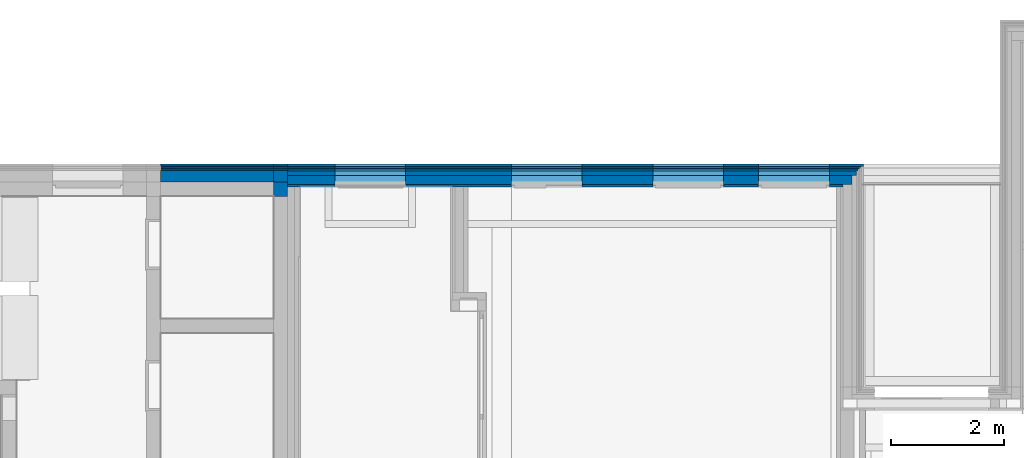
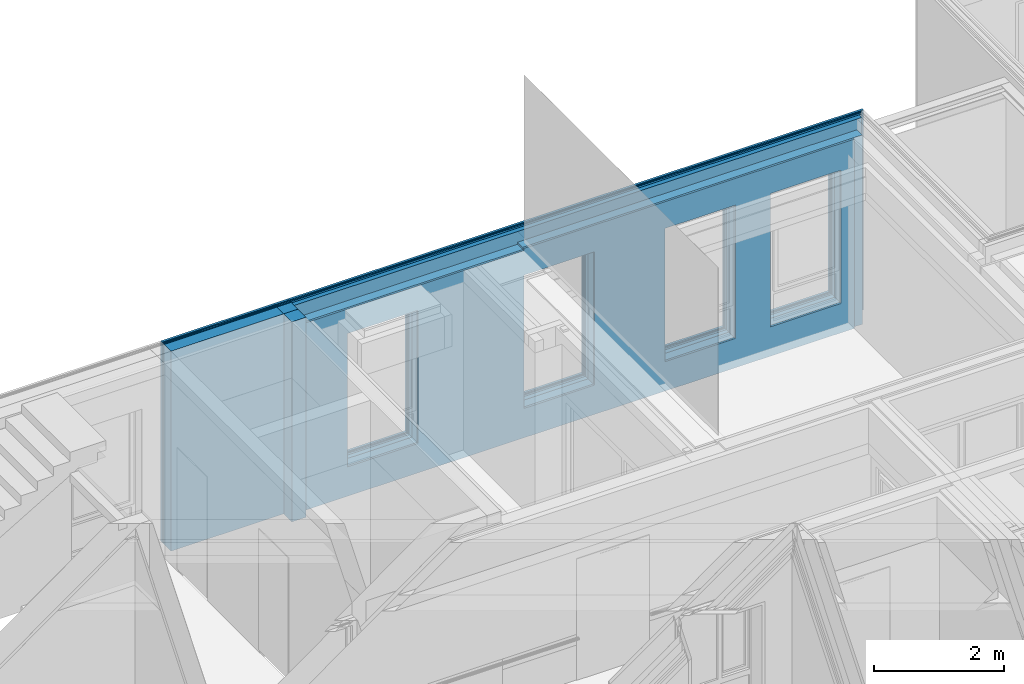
# One storey, part 39 of 222: 18 walls, 28 openings.
"""IFC4 building model written with IfcOpenShell, lengths in metres."""

from ifc_helpers import new_model, entity, si_unit, converted_unit, derived_unit, frame, frame_2d, origin, origin_with_axes, place, context, subcontext, project, spatial, polyline, rectangle, outline, extrude, clip, bounded_halfspace, material, element, save


model = new_model("IFC4")

# Units and contexts
model_context = context("Model", 3, precision=1e-05, world=origin())
body_context = subcontext(model_context, "Body", "Model", "MODEL_VIEW")
ifc_project = project(units=[si_unit("LENGTHUNIT", "METRE"), si_unit("AREAUNIT", "SQUARE_METRE"), si_unit("VOLUMEUNIT", "CUBIC_METRE"), si_unit("MASSUNIT", "GRAM", prefix="KILO"), converted_unit("PLANEANGLEUNIT", "DEGREE", entity("IfcPlaneAngleMeasure", 0.0174532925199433), si_unit("PLANEANGLEUNIT", "RADIAN"), dimensions=[0, 0, 0, 0, 0, 0, 0]), derived_unit("THERMALTRANSMITTANCEUNIT", [(si_unit("POWERUNIT", "WATT"), 1), (si_unit("THERMODYNAMICTEMPERATUREUNIT", "KELVIN"), -1), (si_unit("LENGTHUNIT", "METRE"), -2)]), derived_unit("VOLUMETRICFLOWRATEUNIT", [(si_unit("LENGTHUNIT", "METRE"), 3), (converted_unit("TIMEUNIT", "hour", entity("IfcTimeMeasure", 3600.0), si_unit("TIMEUNIT", "SECOND"), dimensions=[0, 0, 1, 0, 0, 0, 0]), -1), (si_unit("LENGTHUNIT", "METRE"), -1)])], contexts=[model_context])

# Site, building, storey
site_placement = place(None, origin())
site = spatial("IfcSite", under=ifc_project, at=site_placement, Name="Psychiatrie Neubau Wunstorf", CompositionType="ELEMENT")
building_placement = place(site_placement, origin())
building = spatial("IfcBuilding", under=site, at=building_placement, Name="Neubau H2 Stationsgebäude", CompositionType="ELEMENT")
storey_placement = place(building_placement, frame((0.0, 0.0, 3.6)))
storey = spatial("IfcBuildingStorey", under=building, at=storey_placement, Name="H2 Ebene +1", CompositionType="ELEMENT", Elevation=3.6)

# Walls
ifc_material_1 = material(Name="WA-DL")
wall_1_placement = place(storey_placement, frame((55.85, 29.1449996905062, 0.0)))
element("IfcWall", 1, at=wall_1_placement, inside=storey, material=ifc_material_1, context=body_context, shape_type="SweptSolid", body=[
    extrude(rectangle(XDim=2.0, YDim=0.21, at=frame_2d((1.0, 0.105), x_axis=(1.0, 0.0))), origin_with_axes(), (0.0, 0.0, 1.0), 3.75),
])
ifc_material_2 = material(Name="WA-LB")
wall_2_placement = place(storey_placement, frame((55.85, 29.3549996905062, 0.0)))
element("IfcWall", 2, at=wall_2_placement, inside=storey, material=ifc_material_2, context=body_context, shape_type="SweptSolid", body=[
    extrude(rectangle(XDim=2.0, YDim=0.021, at=frame_2d((1.0, 0.0105), x_axis=(1.0, 0.0))), origin_with_axes(), (0.0, 0.0, 1.0), 3.75),
])
ifc_material_3 = material(Name="WA-KL")
wall_3_placement = place(storey_placement, frame((55.85, 29.3759996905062, 0.0)))
element("IfcWall", 3, at=wall_3_placement, inside=storey, material=ifc_material_3, context=body_context, shape_type="SweptSolid", body=[
    extrude(rectangle(XDim=2.0, YDim=0.024, at=frame_2d((1.0, 0.012), x_axis=(1.0, 0.0))), origin_with_axes(), (0.0, 0.0, 1.0), 3.75),
])
ifc_material_4 = material(Name="WA-TL")
wall_4_placement = place(storey_placement, frame((55.85, 29.3999996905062, 0.0)))
element("IfcWall", 4, at=wall_4_placement, inside=storey, material=ifc_material_4, context=body_context, shape_type="SweptSolid", body=[
    extrude(rectangle(XDim=2.0, YDim=0.024, at=frame_2d((1.0, 0.012), x_axis=(1.0, 0.0))), origin_with_axes(), (0.0, 0.0, 1.0), 3.75),
])
ifc_material_5 = material(Name="WA-HS")
wall_5_placement = place(storey_placement, frame((55.85, 29.4239996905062, 0.0)))
element("IfcWall", 5, at=wall_5_placement, inside=storey, material=ifc_material_5, context=body_context, shape_type="SweptSolid", body=[
    extrude(rectangle(XDim=2.0, YDim=0.042, at=frame_2d((1.0, 0.021), x_axis=(1.0, 0.0))), origin_with_axes(), (0.0, 0.0, 1.0), 3.75),
])
ifc_material_6 = material(Name="WA-STB")
wall_6_placement = place(storey_placement, frame((57.85, 28.8949996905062, 0.0)))
element("IfcWall", 6, at=wall_6_placement, inside=storey, material=ifc_material_6, context=body_context, shape_type="SweptSolid", body=[
    extrude(rectangle(XDim=0.25, YDim=0.25, at=frame_2d((0.125, 0.125), x_axis=(1.0, 0.0))), origin_with_axes(), (0.0, 0.0, 1.0), 3.75),
])
ifc_material_7 = material(Name="WA-DL")
wall_7_placement = place(storey_placement, frame((57.85, 29.1449996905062, 0.0)))
element("IfcWall", 7, at=wall_7_placement, inside=storey, material=ifc_material_7, context=body_context, shape_type="SweptSolid", body=[
    extrude(rectangle(XDim=0.25, YDim=0.21, at=frame_2d((0.125, 0.105), x_axis=(1.0, 0.0))), origin_with_axes(), (0.0, 0.0, 1.0), 3.75),
])
ifc_material_8 = material(Name="WA-LB")
wall_8_placement = place(storey_placement, frame((57.85, 29.3549996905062, 0.0)))
element("IfcWall", 8, at=wall_8_placement, inside=storey, material=ifc_material_8, context=body_context, shape_type="SweptSolid", body=[
    extrude(rectangle(XDim=0.25, YDim=0.021, at=frame_2d((0.125, 0.0105), x_axis=(1.0, 0.0))), origin_with_axes(), (0.0, 0.0, 1.0), 3.75),
])
ifc_material_9 = material(Name="WA-KL")
wall_9_placement = place(storey_placement, frame((57.85, 29.3759996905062, 0.0)))
element("IfcWall", 9, at=wall_9_placement, inside=storey, material=ifc_material_9, context=body_context, shape_type="SweptSolid", body=[
    extrude(rectangle(XDim=0.25, YDim=0.024, at=frame_2d((0.125, 0.012), x_axis=(1.0, 0.0))), origin_with_axes(), (0.0, 0.0, 1.0), 3.75),
])
ifc_material_10 = material(Name="WA-TL")
wall_10_placement = place(storey_placement, frame((57.85, 29.3999996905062, 0.0)))
element("IfcWall", 10, at=wall_10_placement, inside=storey, material=ifc_material_10, context=body_context, shape_type="SweptSolid", body=[
    extrude(rectangle(XDim=0.25, YDim=0.024, at=frame_2d((0.125, 0.012), x_axis=(1.0, 0.0))), origin_with_axes(), (0.0, 0.0, 1.0), 3.75),
])
ifc_material_11 = material(Name="WA-HS")
wall_11_placement = place(storey_placement, frame((57.85, 29.4239996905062, 0.0)))
element("IfcWall", 11, at=wall_11_placement, inside=storey, material=ifc_material_11, context=body_context, shape_type="SweptSolid", body=[
    extrude(rectangle(XDim=0.25, YDim=0.042, at=frame_2d((0.125, 0.021), x_axis=(1.0, 0.0))), origin_with_axes(), (0.0, 0.0, 1.0), 3.75),
])

# Wall, openings
ifc_material_12 = material(Name="WA-LB")
wall_12_placement = place(storey_placement, frame((58.1, 29.0639996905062, 0.0)))
wall_12 = element("IfcWall", 12, at=wall_12_placement, inside=storey, material=ifc_material_12, context=body_context, shape_type="Clipping", body=[
    clip(extrude(rectangle(XDim=9.82500000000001, YDim=0.036, at=frame_2d((4.9125, 0.018), x_axis=(1.0, 0.0))), origin_with_axes(), (0.0, 0.0, 1.0), 3.55), bounded_halfspace(frame((1.98125000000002, 0.018, 3.51), z_axis=(0.0, 0.0, -1.0), x_axis=(-1.0, 0.0, 0.0)), True, origin_with_axes(), polyline([(3.96250000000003, 0.036), (0.0, 0.036), (0.0, 0.0), (3.96250000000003, 0.0), (3.96250000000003, 0.036)]))),
])
opening_1_placement = place(wall_12_placement, frame((2.08750000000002, 0.036, 0.55), z_axis=(0.0, -1.0, 0.0), x_axis=(0.0, 0.0, 1.0)))
element("IfcOpeningElement", 13, at=opening_1_placement, cuts=wall_12, Name="Fensteröffnung", ObjectType="Opening", context=body_context, shape_type="SweptSolid", body=[
    extrude(outline(polyline([(2.5, 1.25), (2.5, 0.0), (0.0, 0.0), (0.0, 1.25), (2.5, 1.25)])), origin_with_axes(), (0.0, 0.0, 1.0), 0.036),
])
opening_2_placement = place(wall_12_placement, frame((7.71250000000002, 0.036, 0.55), z_axis=(0.0, -1.0, 0.0), x_axis=(0.0, 0.0, 1.0)))
element("IfcOpeningElement", 14, at=opening_2_placement, cuts=wall_12, Name="Fensteröffnung", ObjectType="Opening", context=body_context, shape_type="SweptSolid", body=[
    extrude(outline(polyline([(2.5, 1.25), (2.5, 0.0), (0.0, 0.0), (0.0, 1.25), (2.5, 1.25)])), origin_with_axes(), (0.0, 0.0, 1.0), 0.036),
])
opening_3_placement = place(wall_12_placement, frame((9.58750000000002, 0.036, 0.55), z_axis=(0.0, -1.0, 0.0), x_axis=(0.0, 0.0, 1.0)))
element("IfcOpeningElement", 15, at=opening_3_placement, cuts=wall_12, Name="Fensteröffnung", ObjectType="Opening", context=body_context, shape_type="SweptSolid", body=[
    extrude(outline(polyline([(2.5, 1.25), (2.5, 0.0), (0.0, 0.0), (0.0, 1.25), (2.5, 1.25)])), origin_with_axes(), (0.0, 0.0, 1.0), 0.036),
])
opening_4_placement = place(wall_12_placement, frame((5.21250000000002, 0.036, 0.55), z_axis=(0.0, -1.0, 0.0), x_axis=(0.0, 0.0, 1.0)))
element("IfcOpeningElement", 16, at=opening_4_placement, cuts=wall_12, Name="Fensteröffnung", ObjectType="Opening", context=body_context, shape_type="SweptSolid", body=[
    extrude(outline(polyline([(2.5, 1.25), (2.5, 0.0), (0.0, 0.0), (0.0, 1.25), (2.5, 1.25)])), origin_with_axes(), (0.0, 0.0, 1.0), 0.036),
])

ifc_material_13 = material(Name="WA-HD")
wall_13_placement = place(storey_placement, frame((58.1, 29.0999996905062, 0.0)))
wall_13 = element("IfcWall", 17, at=wall_13_placement, inside=storey, material=ifc_material_13, context=body_context, shape_type="Clipping", body=[
    clip(extrude(rectangle(XDim=9.98500000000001, YDim=0.16, at=frame_2d((4.9925, 0.08), x_axis=(1.0, 0.0))), origin_with_axes(), (0.0, 0.0, 1.0), 3.55), bounded_halfspace(frame((1.98125000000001, 0.08, 3.51), z_axis=(0.0, 0.0, -1.0), x_axis=(-1.0, 0.0, 0.0)), True, origin_with_axes(), polyline([(3.96250000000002, 0.16), (0.0, 0.16), (0.0, 0.0), (3.96250000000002, 0.0), (3.96250000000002, 0.16)]))),
])
opening_5_placement = place(wall_13_placement, frame((5.21250000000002, 0.16, 0.55), z_axis=(0.0, -1.0, 0.0), x_axis=(0.0, 0.0, 1.0)))
element("IfcOpeningElement", 18, at=opening_5_placement, cuts=wall_13, Name="Fensteröffnung", ObjectType="Opening", context=body_context, shape_type="SweptSolid", body=[
    extrude(outline(polyline([(2.5, 1.25), (2.5, 0.0), (0.0, 0.0), (0.0, 1.25), (2.5, 1.25)])), origin_with_axes(), (0.0, 0.0, 1.0), 0.16),
])
opening_6_placement = place(wall_13_placement, frame((2.08750000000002, 0.16, 0.55), z_axis=(0.0, -1.0, 0.0), x_axis=(0.0, 0.0, 1.0)))
element("IfcOpeningElement", 19, at=opening_6_placement, cuts=wall_13, Name="Fensteröffnung", ObjectType="Opening", context=body_context, shape_type="SweptSolid", body=[
    extrude(outline(polyline([(2.5, 1.25), (2.5, 0.0), (0.0, 0.0), (0.0, 1.25), (2.5, 1.25)])), origin_with_axes(), (0.0, 0.0, 1.0), 0.16),
])
opening_7_placement = place(wall_13_placement, frame((9.58750000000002, 0.16, 0.55), z_axis=(0.0, -1.0, 0.0), x_axis=(0.0, 0.0, 1.0)))
element("IfcOpeningElement", 20, at=opening_7_placement, cuts=wall_13, Name="Fensteröffnung", ObjectType="Opening", context=body_context, shape_type="SweptSolid", body=[
    extrude(outline(polyline([(2.5, 1.25), (2.5, 0.0), (0.0, 0.0), (0.0, 1.25), (2.5, 1.25)])), origin_with_axes(), (0.0, 0.0, 1.0), 0.16),
])
opening_8_placement = place(wall_13_placement, frame((7.71250000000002, 0.16, 0.55), z_axis=(0.0, -1.0, 0.0), x_axis=(0.0, 0.0, 1.0)))
element("IfcOpeningElement", 21, at=opening_8_placement, cuts=wall_13, Name="Fensteröffnung", ObjectType="Opening", context=body_context, shape_type="SweptSolid", body=[
    extrude(outline(polyline([(2.5, 1.25), (2.5, 0.0), (0.0, 0.0), (0.0, 1.25), (2.5, 1.25)])), origin_with_axes(), (0.0, 0.0, 1.0), 0.16),
])

ifc_material_14 = material(Name="WA-DL")
wall_14_placement = place(storey_placement, frame((58.1, 29.2599996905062, 0.0)))
wall_14 = element("IfcWall", 22, at=wall_14_placement, inside=storey, material=ifc_material_14, context=body_context, shape_type="SweptSolid", body=[
    extrude(rectangle(XDim=10.065, YDim=0.08, at=frame_2d((5.0325, 0.04), x_axis=(1.0, 0.0))), origin_with_axes(), (0.0, 0.0, 1.0), 3.75),
])
opening_9_placement = place(wall_14_placement, frame((2.08750000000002, 0.08, 0.55), z_axis=(0.0, -1.0, 0.0), x_axis=(0.0, 0.0, 1.0)))
element("IfcOpeningElement", 23, at=opening_9_placement, cuts=wall_14, Name="Fensteröffnung", ObjectType="Opening", context=body_context, shape_type="SweptSolid", body=[
    extrude(outline(polyline([(2.5, 1.25), (2.5, 0.0), (0.0, 0.0), (0.0, 1.25), (2.5, 1.25)])), origin_with_axes(), (0.0, 0.0, 1.0), 0.08),
])
opening_10_placement = place(wall_14_placement, frame((9.58750000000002, 0.08, 0.55), z_axis=(0.0, -1.0, 0.0), x_axis=(0.0, 0.0, 1.0)))
element("IfcOpeningElement", 24, at=opening_10_placement, cuts=wall_14, Name="Fensteröffnung", ObjectType="Opening", context=body_context, shape_type="SweptSolid", body=[
    extrude(outline(polyline([(2.5, 1.25), (2.5, 0.0), (0.0, 0.0), (0.0, 1.25), (2.5, 1.25)])), origin_with_axes(), (0.0, 0.0, 1.0), 0.08),
])
opening_11_placement = place(wall_14_placement, frame((5.21250000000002, 0.08, 0.55), z_axis=(0.0, -1.0, 0.0), x_axis=(0.0, 0.0, 1.0)))
element("IfcOpeningElement", 25, at=opening_11_placement, cuts=wall_14, Name="Fensteröffnung", ObjectType="Opening", context=body_context, shape_type="SweptSolid", body=[
    extrude(outline(polyline([(2.5, 1.25), (2.5, 0.0), (0.0, 0.0), (0.0, 1.25), (2.5, 1.25)])), origin_with_axes(), (0.0, 0.0, 1.0), 0.08),
])
opening_12_placement = place(wall_14_placement, frame((7.71250000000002, 0.08, 0.55), z_axis=(0.0, -1.0, 0.0), x_axis=(0.0, 0.0, 1.0)))
element("IfcOpeningElement", 26, at=opening_12_placement, cuts=wall_14, Name="Fensteröffnung", ObjectType="Opening", context=body_context, shape_type="SweptSolid", body=[
    extrude(outline(polyline([(2.5, 1.25), (2.5, 0.0), (0.0, 0.0), (0.0, 1.25), (2.5, 1.25)])), origin_with_axes(), (0.0, 0.0, 1.0), 0.08),
])

ifc_material_15 = material(Name="WA-LB")
wall_15_placement = place(storey_placement, frame((58.1, 29.3399996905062, 0.0)))
wall_15 = element("IfcWall", 27, at=wall_15_placement, inside=storey, material=ifc_material_15, context=body_context, shape_type="SweptSolid", body=[
    extrude(rectangle(XDim=10.101, YDim=0.036, at=frame_2d((5.0505, 0.018), x_axis=(1.0, 0.0))), origin_with_axes(), (0.0, 0.0, 1.0), 3.75),
])
opening_13_placement = place(wall_15_placement, frame((2.08750000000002, 0.036, 0.55), z_axis=(0.0, -1.0, 0.0), x_axis=(0.0, 0.0, 1.0)))
element("IfcOpeningElement", 28, at=opening_13_placement, cuts=wall_15, Name="Fensteröffnung", ObjectType="Opening", context=body_context, shape_type="SweptSolid", body=[
    extrude(outline(polyline([(2.5, 1.25), (2.5, 0.0), (0.0, 0.0), (0.0, 1.25), (2.5, 1.25)])), origin_with_axes(), (0.0, 0.0, 1.0), 0.036),
])
opening_14_placement = place(wall_15_placement, frame((7.71250000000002, 0.036, 0.55), z_axis=(0.0, -1.0, 0.0), x_axis=(0.0, 0.0, 1.0)))
element("IfcOpeningElement", 29, at=opening_14_placement, cuts=wall_15, Name="Fensteröffnung", ObjectType="Opening", context=body_context, shape_type="SweptSolid", body=[
    extrude(outline(polyline([(2.5, 1.25), (2.5, 0.0), (0.0, 0.0), (0.0, 1.25), (2.5, 1.25)])), origin_with_axes(), (0.0, 0.0, 1.0), 0.036),
])
opening_15_placement = place(wall_15_placement, frame((5.21250000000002, 0.036, 0.55), z_axis=(0.0, -1.0, 0.0), x_axis=(0.0, 0.0, 1.0)))
element("IfcOpeningElement", 30, at=opening_15_placement, cuts=wall_15, Name="Fensteröffnung", ObjectType="Opening", context=body_context, shape_type="SweptSolid", body=[
    extrude(outline(polyline([(2.5, 1.25), (2.5, 0.0), (0.0, 0.0), (0.0, 1.25), (2.5, 1.25)])), origin_with_axes(), (0.0, 0.0, 1.0), 0.036),
])
opening_16_placement = place(wall_15_placement, frame((9.58750000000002, 0.036, 0.55), z_axis=(0.0, -1.0, 0.0), x_axis=(0.0, 0.0, 1.0)))
element("IfcOpeningElement", 31, at=opening_16_placement, cuts=wall_15, Name="Fensteröffnung", ObjectType="Opening", context=body_context, shape_type="SweptSolid", body=[
    extrude(outline(polyline([(2.5, 1.25), (2.5, 0.0), (0.0, 0.0), (0.0, 1.25), (2.5, 1.25)])), origin_with_axes(), (0.0, 0.0, 1.0), 0.036),
])

ifc_material_16 = material(Name="WA-KL")
wall_16_placement = place(storey_placement, frame((58.1, 29.3759996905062, 0.0)))
wall_16 = element("IfcWall", 32, at=wall_16_placement, inside=storey, material=ifc_material_16, context=body_context, shape_type="SweptSolid", body=[
    extrude(rectangle(XDim=10.125, YDim=0.024, at=frame_2d((5.0625, 0.012), x_axis=(1.0, 0.0))), origin_with_axes(), (0.0, 0.0, 1.0), 3.75),
])
opening_17_placement = place(wall_16_placement, frame((7.71250000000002, 0.024, 0.55), z_axis=(0.0, -1.0, 0.0), x_axis=(0.0, 0.0, 1.0)))
element("IfcOpeningElement", 33, at=opening_17_placement, cuts=wall_16, Name="Fensteröffnung", ObjectType="Opening", context=body_context, shape_type="SweptSolid", body=[
    extrude(outline(polyline([(2.5, 1.25), (2.5, 0.0), (0.0, 0.0), (0.0, 1.25), (2.5, 1.25)])), origin_with_axes(), (0.0, 0.0, 1.0), 0.024),
])
opening_18_placement = place(wall_16_placement, frame((2.08750000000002, 0.024, 0.55), z_axis=(0.0, -1.0, 0.0), x_axis=(0.0, 0.0, 1.0)))
element("IfcOpeningElement", 34, at=opening_18_placement, cuts=wall_16, Name="Fensteröffnung", ObjectType="Opening", context=body_context, shape_type="SweptSolid", body=[
    extrude(outline(polyline([(2.5, 1.25), (2.5, 0.0), (0.0, 0.0), (0.0, 1.25), (2.5, 1.25)])), origin_with_axes(), (0.0, 0.0, 1.0), 0.024),
])
opening_19_placement = place(wall_16_placement, frame((9.58750000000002, 0.024, 0.55), z_axis=(0.0, -1.0, 0.0), x_axis=(0.0, 0.0, 1.0)))
element("IfcOpeningElement", 35, at=opening_19_placement, cuts=wall_16, Name="Fensteröffnung", ObjectType="Opening", context=body_context, shape_type="SweptSolid", body=[
    extrude(outline(polyline([(2.5, 1.25), (2.5, 0.0), (0.0, 0.0), (0.0, 1.25), (2.5, 1.25)])), origin_with_axes(), (0.0, 0.0, 1.0), 0.024),
])
opening_20_placement = place(wall_16_placement, frame((5.21250000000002, 0.024, 0.55), z_axis=(0.0, -1.0, 0.0), x_axis=(0.0, 0.0, 1.0)))
element("IfcOpeningElement", 36, at=opening_20_placement, cuts=wall_16, Name="Fensteröffnung", ObjectType="Opening", context=body_context, shape_type="SweptSolid", body=[
    extrude(outline(polyline([(2.5, 1.25), (2.5, 0.0), (0.0, 0.0), (0.0, 1.25), (2.5, 1.25)])), origin_with_axes(), (0.0, 0.0, 1.0), 0.024),
])

ifc_material_17 = material(Name="WA-TL")
wall_17_placement = place(storey_placement, frame((58.1, 29.3999996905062, 0.0)))
wall_17 = element("IfcWall", 37, at=wall_17_placement, inside=storey, material=ifc_material_17, context=body_context, shape_type="SweptSolid", body=[
    extrude(rectangle(XDim=10.149, YDim=0.024, at=frame_2d((5.0745, 0.012), x_axis=(1.0, 0.0))), origin_with_axes(), (0.0, 0.0, 1.0), 3.75),
])
opening_21_placement = place(wall_17_placement, frame((2.08750000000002, 0.024, 0.55), z_axis=(0.0, -1.0, 0.0), x_axis=(0.0, 0.0, 1.0)))
element("IfcOpeningElement", 38, at=opening_21_placement, cuts=wall_17, Name="Fensteröffnung", ObjectType="Opening", context=body_context, shape_type="SweptSolid", body=[
    extrude(outline(polyline([(2.5, 1.25), (2.5, 0.0), (0.0, 0.0), (0.0, 1.25), (2.5, 1.25)])), origin_with_axes(), (0.0, 0.0, 1.0), 0.024),
])
opening_22_placement = place(wall_17_placement, frame((9.58750000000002, 0.024, 0.55), z_axis=(0.0, -1.0, 0.0), x_axis=(0.0, 0.0, 1.0)))
element("IfcOpeningElement", 39, at=opening_22_placement, cuts=wall_17, Name="Fensteröffnung", ObjectType="Opening", context=body_context, shape_type="SweptSolid", body=[
    extrude(outline(polyline([(2.5, 1.25), (2.5, 0.0), (0.0, 0.0), (0.0, 1.25), (2.5, 1.25)])), origin_with_axes(), (0.0, 0.0, 1.0), 0.024),
])
opening_23_placement = place(wall_17_placement, frame((7.71250000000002, 0.024, 0.55), z_axis=(0.0, -1.0, 0.0), x_axis=(0.0, 0.0, 1.0)))
element("IfcOpeningElement", 40, at=opening_23_placement, cuts=wall_17, Name="Fensteröffnung", ObjectType="Opening", context=body_context, shape_type="SweptSolid", body=[
    extrude(outline(polyline([(2.5, 1.25), (2.5, 0.0), (0.0, 0.0), (0.0, 1.25), (2.5, 1.25)])), origin_with_axes(), (0.0, 0.0, 1.0), 0.024),
])
opening_24_placement = place(wall_17_placement, frame((5.21250000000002, 0.024, 0.55), z_axis=(0.0, -1.0, 0.0), x_axis=(0.0, 0.0, 1.0)))
element("IfcOpeningElement", 41, at=opening_24_placement, cuts=wall_17, Name="Fensteröffnung", ObjectType="Opening", context=body_context, shape_type="SweptSolid", body=[
    extrude(outline(polyline([(2.5, 1.25), (2.5, 0.0), (0.0, 0.0), (0.0, 1.25), (2.5, 1.25)])), origin_with_axes(), (0.0, 0.0, 1.0), 0.024),
])

ifc_material_18 = material(Name="WA-HS")
wall_18_placement = place(storey_placement, frame((58.1, 29.4239996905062, 0.0)))
wall_18 = element("IfcWall", 42, at=wall_18_placement, inside=storey, material=ifc_material_18, context=body_context, shape_type="SweptSolid", body=[
    extrude(rectangle(XDim=10.191, YDim=0.042, at=frame_2d((5.0955, 0.021), x_axis=(1.0, 0.0))), origin_with_axes(), (0.0, 0.0, 1.0), 3.75),
])
opening_25_placement = place(wall_18_placement, frame((2.08750000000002, 0.042, 0.55), z_axis=(0.0, -1.0, 0.0), x_axis=(0.0, 0.0, 1.0)))
element("IfcOpeningElement", 43, at=opening_25_placement, cuts=wall_18, Name="Fensteröffnung", ObjectType="Opening", context=body_context, shape_type="SweptSolid", body=[
    extrude(outline(polyline([(2.5, 1.25), (2.5, 0.0), (0.0, 0.0), (0.0, 1.25), (2.5, 1.25)])), origin_with_axes(), (0.0, 0.0, 1.0), 0.042),
])
opening_26_placement = place(wall_18_placement, frame((7.71250000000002, 0.042, 0.55), z_axis=(0.0, -1.0, 0.0), x_axis=(0.0, 0.0, 1.0)))
element("IfcOpeningElement", 44, at=opening_26_placement, cuts=wall_18, Name="Fensteröffnung", ObjectType="Opening", context=body_context, shape_type="SweptSolid", body=[
    extrude(outline(polyline([(2.5, 1.25), (2.5, 0.0), (0.0, 0.0), (0.0, 1.25), (2.5, 1.25)])), origin_with_axes(), (0.0, 0.0, 1.0), 0.042),
])
opening_27_placement = place(wall_18_placement, frame((9.58750000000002, 0.042, 0.55), z_axis=(0.0, -1.0, 0.0), x_axis=(0.0, 0.0, 1.0)))
element("IfcOpeningElement", 45, at=opening_27_placement, cuts=wall_18, Name="Fensteröffnung", ObjectType="Opening", context=body_context, shape_type="SweptSolid", body=[
    extrude(outline(polyline([(2.5, 1.25), (2.5, 0.0), (0.0, 0.0), (0.0, 1.25), (2.5, 1.25)])), origin_with_axes(), (0.0, 0.0, 1.0), 0.042),
])
opening_28_placement = place(wall_18_placement, frame((5.21250000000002, 0.042, 0.55), z_axis=(0.0, -1.0, 0.0), x_axis=(0.0, 0.0, 1.0)))
element("IfcOpeningElement", 46, at=opening_28_placement, cuts=wall_18, Name="Fensteröffnung", ObjectType="Opening", context=body_context, shape_type="SweptSolid", body=[
    extrude(outline(polyline([(2.5, 1.25), (2.5, 0.0), (0.0, 0.0), (0.0, 1.25), (2.5, 1.25)])), origin_with_axes(), (0.0, 0.0, 1.0), 0.042),
])

save(model, "model.ifc")
